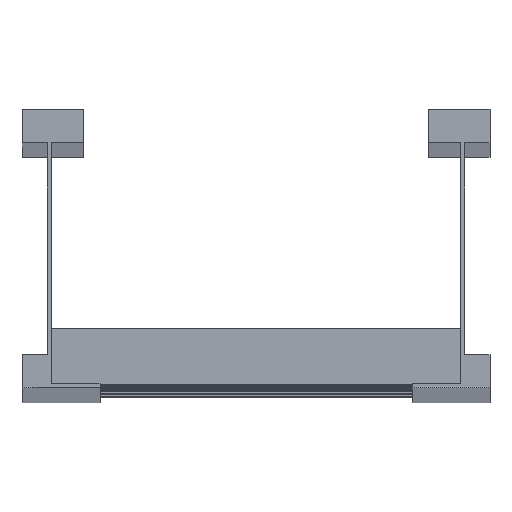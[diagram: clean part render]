
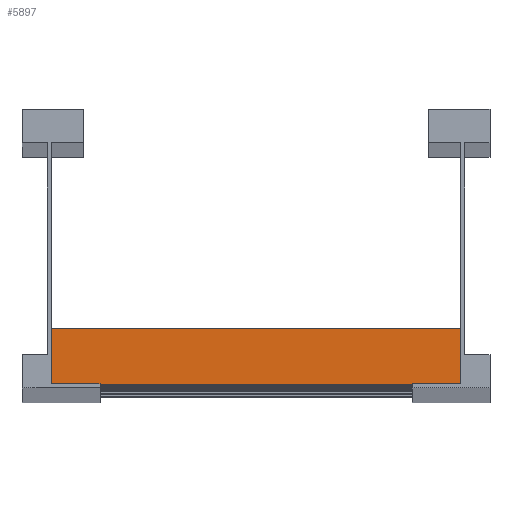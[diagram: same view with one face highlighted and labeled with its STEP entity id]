
A CAD part, top view. The second image highlights one B-rep face of the part: STEP entity #5897.
In plain terms, the highlighted planar face has unit normal (0, 0, 1).
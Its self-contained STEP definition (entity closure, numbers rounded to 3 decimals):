
#504 = DIRECTION ( 'NONE',  ( -1., 0., 0. ) ) ;
#735 = DIRECTION ( 'NONE',  ( 0., 1., 0. ) ) ;
#792 = EDGE_CURVE ( 'NONE', #7062, #8141, #2276, .T. ) ;
#1358 = CARTESIAN_POINT ( 'NONE',  ( 73.5, 0., 20.25 ) ) ;
#1825 = AXIS2_PLACEMENT_3D ( 'NONE', #3508, #11449, #735 ) ;
#2008 = ORIENTED_EDGE ( 'NONE', *, *, #6984, .F. ) ;
#2180 = VECTOR ( 'NONE', #5756, 1000. ) ;
#2276 = LINE ( 'NONE', #4347, #2709 ) ;
#2707 = CARTESIAN_POINT ( 'NONE',  ( -73.5, 20., 20.25 ) ) ;
#2709 = VECTOR ( 'NONE', #6937, 1000. ) ;
#3508 = CARTESIAN_POINT ( 'NONE',  ( 73.5, 20., 20.25 ) ) ;
#3752 = DIRECTION ( 'NONE',  ( 0., -1., 0. ) ) ;
#4105 = VECTOR ( 'NONE', #504, 1000. ) ;
#4347 = CARTESIAN_POINT ( 'NONE',  ( 73.5, 20., 20.25 ) ) ;
#4450 = PLANE ( 'NONE',  #1825 ) ;
#5694 = EDGE_CURVE ( 'NONE', #8141, #9284, #9987, .T. ) ;
#5756 = DIRECTION ( 'NONE',  ( 0., -1., 0. ) ) ;
#5813 = CARTESIAN_POINT ( 'NONE',  ( 73.5, 0., 20.25 ) ) ;
#5819 = CARTESIAN_POINT ( 'NONE',  ( 73.5, 20., 20.25 ) ) ;
#5897 = ADVANCED_FACE ( 'NONE', ( #10563 ), #4450, .F. ) ;
#6107 = ORIENTED_EDGE ( 'NONE', *, *, #9843, .F. ) ;
#6937 = DIRECTION ( 'NONE',  ( -1., 0., 0. ) ) ;
#6960 = CARTESIAN_POINT ( 'NONE',  ( -73.5, 0., 20.25 ) ) ;
#6984 = EDGE_CURVE ( 'NONE', #9115, #9284, #7805, .T. ) ;
#7062 = VERTEX_POINT ( 'NONE', #9576 ) ;
#7100 = ORIENTED_EDGE ( 'NONE', *, *, #792, .T. ) ;
#7351 = LINE ( 'NONE', #5819, #2180 ) ;
#7805 = LINE ( 'NONE', #5813, #4105 ) ;
#8141 = VERTEX_POINT ( 'NONE', #2707 ) ;
#8942 = EDGE_LOOP ( 'NONE', ( #10422, #2008, #6107, #7100 ) ) ;
#9115 = VERTEX_POINT ( 'NONE', #1358 ) ;
#9284 = VERTEX_POINT ( 'NONE', #6960 ) ;
#9576 = CARTESIAN_POINT ( 'NONE',  ( 73.5, 20., 20.25 ) ) ;
#9843 = EDGE_CURVE ( 'NONE', #7062, #9115, #7351, .T. ) ;
#9987 = LINE ( 'NONE', #11039, #10661 ) ;
#10422 = ORIENTED_EDGE ( 'NONE', *, *, #5694, .T. ) ;
#10563 = FACE_OUTER_BOUND ( 'NONE', #8942, .T. ) ;
#10661 = VECTOR ( 'NONE', #3752, 1000. ) ;
#11039 = CARTESIAN_POINT ( 'NONE',  ( -73.5, 20., 20.25 ) ) ;
#11449 = DIRECTION ( 'NONE',  ( 0., 0., -1. ) ) ;
